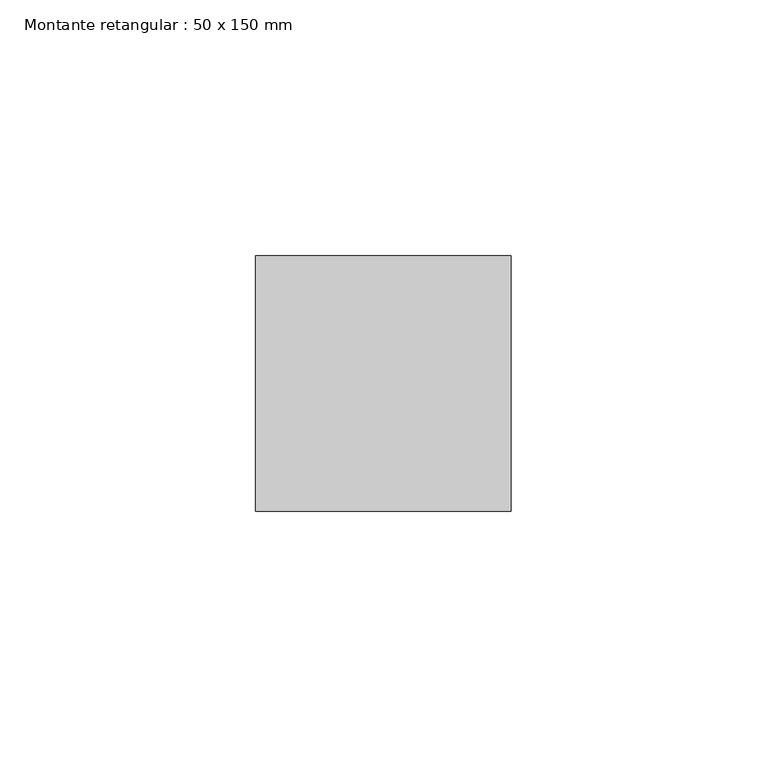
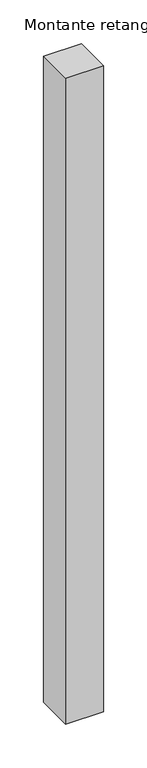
"""IFC4 building model written with IfcOpenShell, lengths in millimetres: member geometry, Montante retangular : 50 x 150 mm."""

from ifc_helpers import new_model, si_unit, frame, origin, place, context, project, spatial, polyline, outline, extrude, source, transform, mapped, element, save


def montante_retangular_50_x_150_mm_50d0f7ea(model_context):
    return source(origin(), model_context, "Body", "SweptSolid", [
        extrude(outline(polyline([(0.0, 25.0), (0.0, -25.0), (-50.0, -25.0), (-50.0, 25.0), (0.0, 25.0)])), frame((0.0, 0.0, -900.0), z_axis=(0.0, 0.0, 1.0), x_axis=(1.0, 0.0, 0.0)), (0.0, 0.0, 1.0), 900.0),
    ])


if __name__ == "__main__":
    model = new_model("IFC4")
    model_context = context("Model", 3, world=origin())
    ifc_project = project(units=[si_unit("LENGTHUNIT", "METRE", prefix="MILLI")], contexts=[model_context])
    site = spatial("IfcSite", under=ifc_project)
    building = spatial("IfcBuilding", under=site)
    placement = place(None, origin())
    montante_retangular_50_x_150_mm_shape = montante_retangular_50_x_150_mm_50d0f7ea(model_context)
    element("IfcMember", 1, ObjectType="Montante retangular : 50 x 150 mm", at=placement, inside=building, context=model_context, shape_type="MappedRepresentation", body=[
        mapped(montante_retangular_50_x_150_mm_shape, transform((0.0, 0.0, 0.0), x_axis=(1.0, 0.0, 0.0), y_axis=(0.0, 1.0, 0.0), z_axis=(0.0, 0.0, 1.0))),
    ])
    save(model, "model.ifc")
